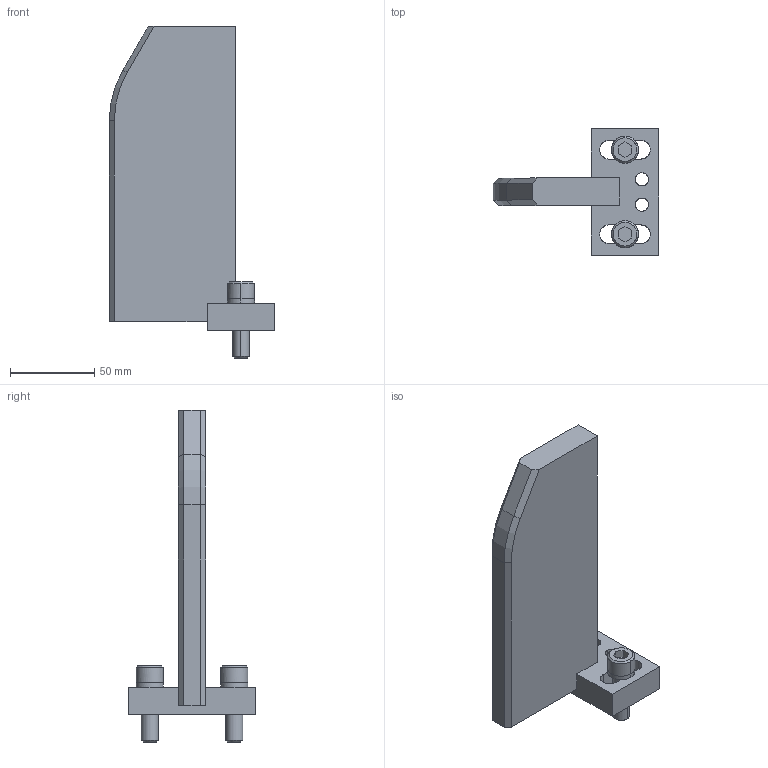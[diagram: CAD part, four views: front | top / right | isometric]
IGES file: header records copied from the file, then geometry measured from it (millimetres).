
Global section: file name: E:\UnigraphicsGraphicData\MISUMI_PRESS-PARTS\IGES\3d_ngwa-180-40-s75-m10_01579_r00.igs; native system: NX V5.0; preprocessor: UGS NX IGES V5.0; author: MISUMI; date: 20110105.162109; units: millimetre
Bounding box: 98 x 75 x 196.5 mm (x, y, z)
Surface area: 49583.5 mm2 (no closed solid volume)
Topology: 0 solids, 0 shells, 104 faces, 666 edges, 666 vertices
Faces by surface type: bspline 104
